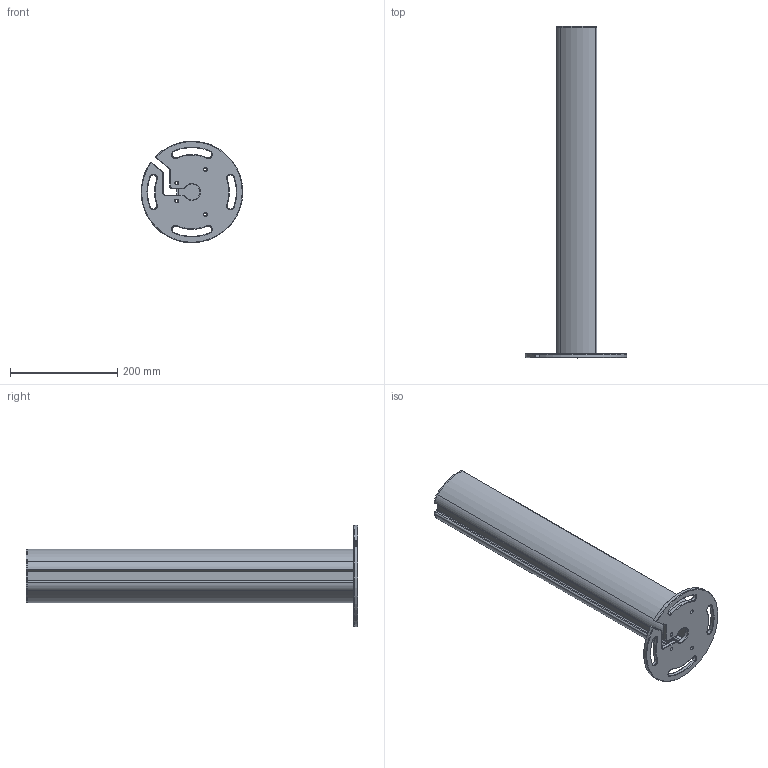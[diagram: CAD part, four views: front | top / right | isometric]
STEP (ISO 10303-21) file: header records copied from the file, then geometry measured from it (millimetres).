
FILE_DESCRIPTION((''),'2;1');
FILE_NAME('ESQC_ASM','2022-07-19T11:51:30',('18822879468'),(''),'CREO PARAMETRIC BY PTC INC, 2019010','CREO PARAMETRIC BY PTC INC, 2019010','');
FILE_SCHEMA(('CONFIG_CONTROL_DESIGN'));
Length unit declared in the file: millimetre
Products named in the file (5): 00; _-0001; _-0002; 000; ESQC_ASM
Assembly tree (4 placements, depth 2):
  ESQC_ASM
    00
    _-0001
    _-0002
    000
Bounding box: 189.81 x 620 x 189.85 mm (x, y, z)
Volume: 1010125.6 mm3; surface area: 517251.7 mm2
Topology: 4 solids, 4 shells, 239 faces, 613 edges, 378 vertices
Faces by surface type: cylinder 98, plane 73, cone 68
Entity records: 7388 total; most frequent: DIRECTION 1365, CARTESIAN_POINT 1235, ORIENTED_EDGE 1218, EDGE_CURVE 609, AXIS2_PLACEMENT_3D 508, VERTEX_POINT 378, VECTOR 349, LINE 349
